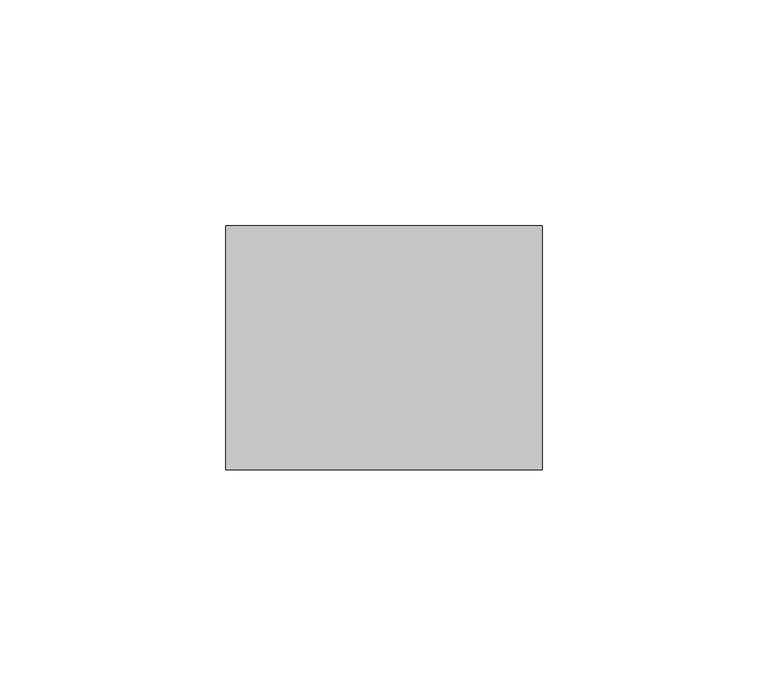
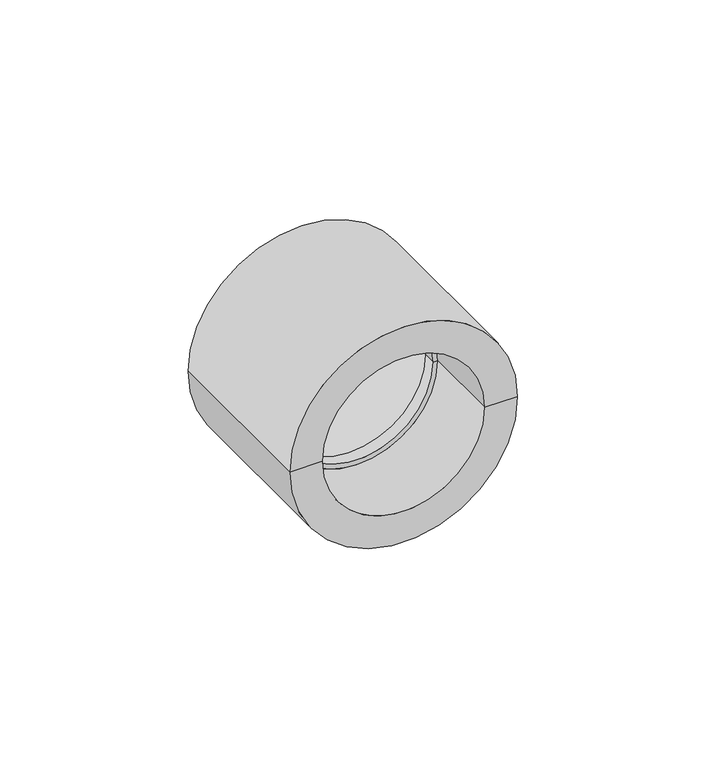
"""IFC4 building model written with IfcOpenShell, lengths in millimetres: pipe fitting geometry, NIRON RED termofusion manguito : Estándar."""

import ifcopenshell
import ifcopenshell.guid

model = None  # the IFC model being written
_history = None  # IfcOwnerHistory: only IFC2X3 demands one
_inside = {}  # id of a spatial element -> (the spatial element, [elements in it])
_under = {}  # id of a project, library or spatial element -> (it, [spatial elements below it])
_declared = {}  # id of a project -> (the project, [libraries it declares])
_typed = {}  # id of a type object -> (the type object, [elements of that type])
_made_of = {}  # id of a material, layer set ... -> (it, [elements and type objects made of it])


def new_model(schema):
    """Start an empty IFC model of exactly this schema.

    Asked for "IFC4X3", IfcOpenShell would pick the latest addendum, in which some entities
    have other attributes; the version numbers below select the first issue.
    IFC2X3 requires an IfcOwnerHistory on every rooted entity: one is made here for all.
    """
    global model, _history
    if schema == "IFC4X3":
        model = ifcopenshell.file(schema_version=(4, 3, 0, 0))
    else:
        model = ifcopenshell.file(schema=schema)
    _inside.clear()
    _under.clear()
    _declared.clear()
    _typed.clear()
    _made_of.clear()
    _history = None
    if model.schema == "IFC2X3":
        org = make("IfcOrganization", Name="unknown")
        user = make(
            "IfcPersonAndOrganization",
            ThePerson=make("IfcPerson", FamilyName="unknown"),
            TheOrganization=org,
        )
        app = make(
            "IfcApplication",
            ApplicationDeveloper=org,
            Version="unknown",
            ApplicationFullName="unknown",
            ApplicationIdentifier="unknown",
        )
        _history = make(
            "IfcOwnerHistory",
            OwningUser=user,
            OwningApplication=app,
            ChangeAction="ADDED",
            CreationDate=0,
        )
    return model


def make(cls, **values):
    """One entity of the class cls with the attributes given. An attribute that is None is left unset."""
    return model.create_entity(
        cls, **{name: value for name, value in values.items() if value is not None}
    )


def rooted(cls, **values):
    """An entity with a GlobalId (a new one), such as an element, a storey or a relation."""
    return make(cls, GlobalId=ifcopenshell.guid.new(), OwnerHistory=_history, **values)


def si_unit(unit_type, name, prefix=None):
    """IfcSIUnit, for example si_unit("LENGTHUNIT", "METRE", prefix="MILLI")."""
    return make("IfcSIUnit", UnitType=unit_type, Prefix=prefix, Name=name)


def assignment(units):
    """IfcUnitAssignment: the units of a project."""
    return None if units is None else make("IfcUnitAssignment", Units=units)


def point(xyz):
    """IfcCartesianPoint."""
    return None if xyz is None else make("IfcCartesianPoint", Coordinates=xyz)


def direction(xyz):
    """IfcDirection."""
    return None if xyz is None else make("IfcDirection", DirectionRatios=xyz)


def frame(location, z_axis=None, x_axis=None):
    """IfcAxis2Placement3D, a coordinate frame: its origin and axes. An axis left out is left unset."""
    return make(
        "IfcAxis2Placement3D",
        Location=point(location),
        Axis=direction(z_axis),
        RefDirection=direction(x_axis),
    )


def origin():
    """The frame at (0, 0, 0) with its axes left unset."""
    return frame((0.0, 0.0, 0.0))


def place(relative_to, where):
    """IfcLocalPlacement: puts the frame where relative to a parent placement (None: the world)."""
    return make(
        "IfcLocalPlacement", PlacementRelTo=relative_to, RelativePlacement=where
    )


def context(
    kind, dimensions, precision=None, world=None, true_north=None, identifier=None
):
    """IfcGeometricRepresentationContext, for example the 3D "Model" context."""
    return make(
        "IfcGeometricRepresentationContext",
        ContextIdentifier=identifier,
        ContextType=kind,
        CoordinateSpaceDimension=dimensions,
        Precision=precision,
        WorldCoordinateSystem=world,
        TrueNorth=true_north,
    )


def project(units=None, contexts=None):
    """IfcProject with its units and contexts."""
    return rooted(
        "IfcProject",
        Name="project",
        RepresentationContexts=contexts,
        UnitsInContext=assignment(units),
    )


def spatial(cls, under=None, at=None, **own):
    """A site, building, storey or space (cls), placed at a placement, below another one or the project."""
    s = rooted(cls, ObjectPlacement=at, **own)
    if under is not None:
        _under.setdefault(under.id(), (under, []))[1].append(s)
    return s


def polyline(points):
    """IfcPolyline through the points."""
    return make("IfcPolyline", Points=[point(p) for p in points])


def circle_curve(where, radius):
    """IfcCircle in the frame where."""
    return make("IfcCircle", Position=where, Radius=radius)


def shape(context_of_items, identifier, shape_type, items):
    """IfcShapeRepresentation: the items that make up one representation, for example the "Body"."""
    return make(
        "IfcShapeRepresentation",
        ContextOfItems=context_of_items,
        RepresentationIdentifier=identifier,
        RepresentationType=shape_type,
        Items=items,
    )


def source(mapping_origin, context_of_items, identifier, shape_type, items):
    """IfcRepresentationMap: a shape defined once, which mapped items show again and again."""
    return make(
        "IfcRepresentationMap",
        MappingOrigin=mapping_origin,
        MappedRepresentation=shape(context_of_items, identifier, shape_type, items),
    )


def transform(
    local_origin,
    x_axis=None,
    y_axis=None,
    z_axis=None,
    scale=None,
    scale2=None,
    scale3=None,
    uniform=True,
):
    """IfcCartesianTransformationOperator3D, or its non-uniform kind. x_axis, y_axis, z_axis: its Axis1, 2, 3."""
    if uniform:
        return make(
            "IfcCartesianTransformationOperator3D",
            Axis1=direction(x_axis),
            Axis2=direction(y_axis),
            LocalOrigin=point(local_origin),
            Scale=scale,
            Axis3=direction(z_axis),
        )
    return make(
        "IfcCartesianTransformationOperator3DnonUniform",
        Axis1=direction(x_axis),
        Axis2=direction(y_axis),
        LocalOrigin=point(local_origin),
        Scale=scale,
        Axis3=direction(z_axis),
        Scale2=scale2,
        Scale3=scale3,
    )


def mapped(mapping_source, mapping_target):
    """IfcMappedItem: shows the shape of a source again, moved by a transform."""
    return make(
        "IfcMappedItem", MappingSource=mapping_source, MappingTarget=mapping_target
    )


def made_of(thing, what):
    """Note that an element or type object is made of a material, layer set ...; save() writes the relation."""
    if what is not None:
        _made_of.setdefault(what.id(), (what, []))[1].append(thing)
    return thing


def element(
    cls,
    number,
    at=None,
    inside=None,
    cuts=None,
    type_object=None,
    material=None,
    context=None,
    identifier="Body",
    shape_type=None,
    held_by="IfcProductDefinitionShape",
    body=None,
    shapes=None,
    **own,
):
    """One element of the class cls, such as IfcWall. Its Tag is "e" and its number.

    at: its placement. inside: the storey or other place that contains it. cuts: it is an
    opening in that element (IfcRelVoidsElement). A single representation is given by context,
    identifier, shape_type and body (its items); several are given by shapes. held_by: the class
    of the entity that holds the representations. save() writes the other relations.
    """
    e = rooted(cls, Tag="e%d" % number, ObjectPlacement=at, **own)
    if body is not None:
        shapes = [shape(context, identifier, shape_type, body)]
    if shapes is not None:
        e.Representation = make(held_by, Representations=shapes)
    if inside is not None:
        _inside.setdefault(inside.id(), (inside, []))[1].append(e)
    if cuts is not None:
        rooted(
            "IfcRelVoidsElement", RelatingBuildingElement=cuts, RelatedOpeningElement=e
        )
    if type_object is not None:
        _typed.setdefault(type_object.id(), (type_object, []))[1].append(e)
    return made_of(e, material)


def aggregate(whole, parts):
    """IfcRelAggregates: a whole, such as a stair, and the parts it consists of."""
    return rooted("IfcRelAggregates", RelatingObject=whole, RelatedObjects=parts)


def save(model, path):
    """Write the relations noted so far, then the file.

    IfcRelAggregates (storeys below a building ...), IfcRelContainedInSpatialStructure (elements
    in a storey), IfcRelDefinesByType, IfcRelAssociatesMaterial and IfcRelDeclares: one each for
    every whole, place, type object, material and project.
    """
    for whole, parts in _under.values():
        aggregate(whole, parts)
    for where, things in _inside.values():
        rooted(
            "IfcRelContainedInSpatialStructure",
            RelatedElements=things,
            RelatingStructure=where,
        )
    for kind, things in _typed.values():
        rooted("IfcRelDefinesByType", RelatedObjects=things, RelatingType=kind)
    for what, things in _made_of.values():
        rooted("IfcRelAssociatesMaterial", RelatedObjects=things, RelatingMaterial=what)
    for by, libraries in _declared.values():
        rooted("IfcRelDeclares", RelatingContext=by, RelatedDefinitions=libraries)
    model.write(path)


def plane_surface(at):
    """IfcPlane: the flat surface through the origin of the frame at, square to its z axis."""
    return make("IfcPlane", Position=at)


def cylinder_surface(at, radius):
    """IfcCylindricalSurface: all points at the distance radius from the z axis of the frame at."""
    return make("IfcCylindricalSurface", Position=at, Radius=radius)


def revolved_surface(curve, axis_point, axis_direction):
    """IfcSurfaceOfRevolution: the curve turned about the line through axis_point along axis_direction."""
    return make(
        "IfcSurfaceOfRevolution",
        SweptCurve=make("IfcArbitraryOpenProfileDef", ProfileType="CURVE", Curve=curve),
        AxisPosition=make("IfcAxis1Placement", Location=point(axis_point), Axis=direction(axis_direction)),
    )


def advanced_brep(points, edges, surfaces, faces):
    """IfcAdvancedBrep: a solid bounded by faces that lie on surfaces and meet in shared edges.

    An edge is (start, end): straight between two places in points (the first is 0);
    or (start, end, curve); or (start, end, curve, False) where it runs against its curve.
    A face is (place in surfaces, loops), or (place, loops, False) where it looks against
    its surface's normal. A loop lists edges by number (the first is 1), with a minus sign
    where the edge is run from its end to its start. The first loop is the outer one.
    """
    corners = [point(p) for p in points]
    vertices = [make("IfcVertexPoint", VertexGeometry=c) for c in corners]
    made = []
    for start, end, *more in edges:
        made.append(
            make(
                "IfcEdgeCurve",
                EdgeStart=vertices[start],
                EdgeEnd=vertices[end],
                EdgeGeometry=more[0] if more else make("IfcPolyline", Points=[corners[start], corners[end]]),
                SameSense=more[1] if len(more) > 1 else True,
            )
        )
    hull = []
    for where, loops, *sense in faces:
        bounds = []
        for j, loop in enumerate(loops):
            ring = [make("IfcOrientedEdge", EdgeElement=made[abs(k) - 1], Orientation=k > 0) for k in loop]
            bounds.append(
                make(
                    "IfcFaceOuterBound" if j == 0 else "IfcFaceBound",
                    Bound=make("IfcEdgeLoop", EdgeList=ring),
                    Orientation=True,
                )
            )
        hull.append(make("IfcAdvancedFace", Bounds=bounds, FaceSurface=surfaces[where], SameSense=sense[0] if sense else True))
    return make("IfcAdvancedBrep", Outer=make("IfcClosedShell", CfsFaces=hull))


def pipe_fitting_53a4ee52(model_context):
    return source(origin(), model_context, "Body", "AdvancedBrep", [
        advanced_brep(
        [(35.0, 54.0, 0.0), (-35.0, 54.0, 0.0), (-25.0, 54.0, 0.0), (25.0, 54.0, 0.0), (35.0, 0.0, 0.0), (-35.0, 0.0, 0.0), (25.0, 0.0, 0.0), (-25.0, 0.0, 0.0), (25.0, 25.0, 0.0), (-25.0, 25.0, 0.0), (23.5, 25.0, 0.0), (-23.5, 25.0, 0.0), (23.5, 29.0, 0.0), (-23.5, 29.0, 0.0), (25.0, 29.0, 0.0), (-25.0, 29.0, 0.0)],
        [
            (0, 1, circle_curve(frame((0.0, 54.0, 0.0), z_axis=(0.0, 1.0, 0.0), x_axis=(-1.0, 0.0, 0.0)), 35.0)),
            (1, 2),
            (2, 3, circle_curve(frame((0.0, 54.0, 0.0), z_axis=(0.0, -1.0, 0.0), x_axis=(-1.0, 0.0, 0.0)), 25.0)),
            (3, 0),
            (1, 0, circle_curve(frame((0.0, 54.0, 0.0), z_axis=(0.0, 1.0, 0.0), x_axis=(-1.0, 0.0, 0.0)), 35.0)),
            (3, 2, circle_curve(frame((0.0, 54.0, 0.0), z_axis=(0.0, -1.0, 0.0), x_axis=(-1.0, 0.0, 0.0)), 25.0)),
            (4, 5, circle_curve(frame((0.0, 0.0, 0.0), z_axis=(0.0, 1.0, 0.0), x_axis=(-1.0, 0.0, 0.0)), 35.0)),
            (5, 1),
            (0, 4),
            (5, 4, circle_curve(frame((0.0, 0.0, 0.0), z_axis=(0.0, 1.0, 0.0), x_axis=(-1.0, 0.0, 0.0)), 35.0)),
            (6, 7, circle_curve(frame((0.0, 0.0, 0.0), z_axis=(0.0, 1.0, 0.0), x_axis=(-1.0, 0.0, 0.0)), 25.0)),
            (7, 5),
            (4, 6),
            (7, 6, circle_curve(frame((0.0, 0.0, 0.0), z_axis=(0.0, 1.0, 0.0), x_axis=(-1.0, 0.0, 0.0)), 25.0)),
            (8, 9, circle_curve(frame((0.0, 25.0, 0.0), z_axis=(0.0, 1.0, 0.0), x_axis=(-1.0, 0.0, 0.0)), 25.0)),
            (9, 7),
            (6, 8),
            (9, 8, circle_curve(frame((0.0, 25.0, 0.0), z_axis=(0.0, 1.0, 0.0), x_axis=(-1.0, 0.0, 0.0)), 25.0)),
            (10, 11, circle_curve(frame((0.0, 25.0, 0.0), z_axis=(0.0, 1.0, 0.0), x_axis=(-1.0, 0.0, 0.0)), 23.5)),
            (11, 9),
            (8, 10),
            (11, 10, circle_curve(frame((0.0, 25.0, 0.0), z_axis=(0.0, 1.0, 0.0), x_axis=(-1.0, 0.0, 0.0)), 23.5)),
            (12, 13, circle_curve(frame((0.0, 29.0, 0.0), z_axis=(0.0, 1.0, 0.0), x_axis=(-1.0, 0.0, 0.0)), 23.5)),
            (13, 11),
            (10, 12),
            (13, 12, circle_curve(frame((0.0, 29.0, 0.0), z_axis=(0.0, 1.0, 0.0), x_axis=(-1.0, 0.0, 0.0)), 23.5)),
            (14, 15, circle_curve(frame((0.0, 29.0, 0.0), z_axis=(0.0, 1.0, 0.0), x_axis=(-1.0, 0.0, 0.0)), 25.0)),
            (15, 13),
            (12, 14),
            (15, 14, circle_curve(frame((0.0, 29.0, 0.0), z_axis=(0.0, 1.0, 0.0), x_axis=(-1.0, 0.0, 0.0)), 25.0)),
            (2, 15),
            (14, 3),
        ],
        [
            plane_surface(frame((0.0, 54.0, 0.0), z_axis=(0.0, 1.0, 0.0), x_axis=(-1.0, 0.0, 0.0))),
            cylinder_surface(frame((0.0, 79.0, 0.0), z_axis=(0.0, -1.0, 0.0), x_axis=(-1.0, 0.0, 0.0)), 35.0),
            plane_surface(frame((0.0, 0.0, 0.0), z_axis=(0.0, -1.0, 0.0), x_axis=(-1.0, 0.0, 0.0))),
            revolved_surface(polyline([(-25.0, 0.0, 0.0), (-25.0, 25.0, 0.0)]), (0.0, 79.0, 0.0), (0.0, -1.0, 0.0)),
            plane_surface(frame((0.0, 25.0, 0.0), z_axis=(0.0, -1.0, 0.0), x_axis=(-1.0, 0.0, 0.0))),
            revolved_surface(polyline([(-23.5, 25.0, 0.0), (-23.5, 29.0, 0.0)]), (0.0, 79.0, 0.0), (0.0, -1.0, 0.0)),
            plane_surface(frame((0.0, 29.0, 0.0), z_axis=(0.0, 1.0, 0.0), x_axis=(-1.0, 0.0, 0.0))),
            revolved_surface(polyline([(-25.0, 29.0, 0.0), (-25.0, 54.0, 0.0)]), (0.0, 79.0, 0.0), (0.0, -1.0, 0.0)),
        ],
        [
            (0, [[1, 2, 3, 4]]),
            (0, [[5, -4, 6, -2]]),
            (1, [[7, 8, -1, 9]]),
            (1, [[10, -9, -5, -8]]),
            (2, [[11, 12, -7, 13]]),
            (2, [[14, -13, -10, -12]]),
            (3, [[15, 16, -11, 17]]),
            (3, [[18, -17, -14, -16]]),
            (4, [[19, 20, -15, 21]]),
            (4, [[22, -21, -18, -20]]),
            (5, [[23, 24, -19, 25]]),
            (5, [[26, -25, -22, -24]]),
            (6, [[27, 28, -23, 29]]),
            (6, [[30, -29, -26, -28]]),
            (7, [[-3, 31, -27, 32]]),
            (7, [[-6, -32, -30, -31]]),
        ],
    ),
    ])


if __name__ == "__main__":
    model = new_model("IFC4")
    model_context = context("Model", 3, world=origin())
    ifc_project = project(units=[si_unit("LENGTHUNIT", "METRE", prefix="MILLI")], contexts=[model_context])
    site = spatial("IfcSite", under=ifc_project)
    building = spatial("IfcBuilding", under=site)
    placement = place(None, origin())
    pipe_fitting_shape = pipe_fitting_53a4ee52(model_context)
    element("IfcPipeFitting", 1, ObjectType="NIRON RED termofusion manguito : Estándar", at=placement, inside=building, context=model_context, shape_type="MappedRepresentation", body=[
        mapped(pipe_fitting_shape, transform((0.0, 0.0, 0.0), x_axis=(1.0, 0.0, 0.0), y_axis=(0.0, 1.0, 0.0), z_axis=(0.0, 0.0, 1.0))),
    ])
    save(model, "model.ifc")
